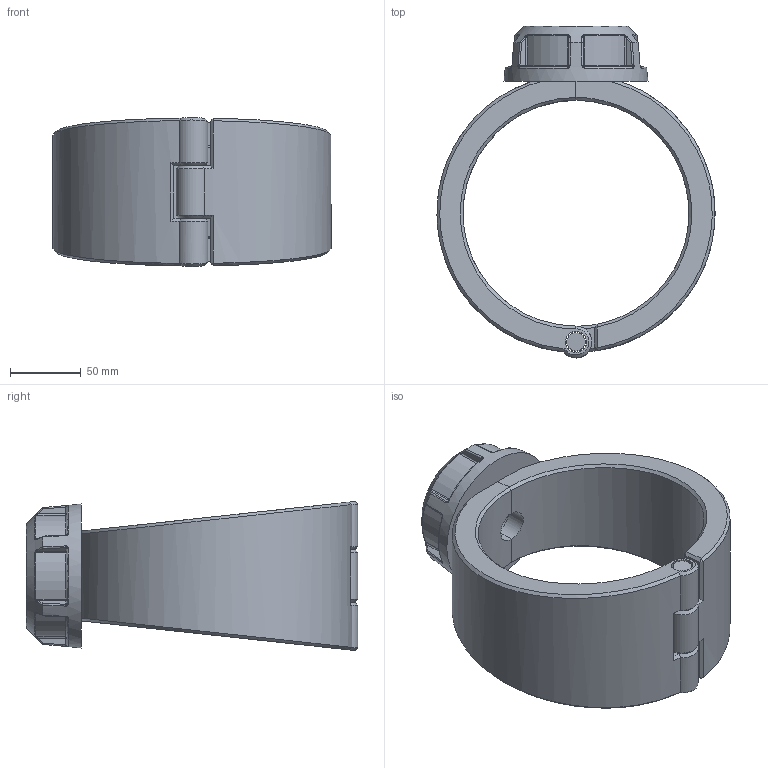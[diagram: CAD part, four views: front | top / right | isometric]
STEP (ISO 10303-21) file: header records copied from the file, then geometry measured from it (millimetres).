
FILE_DESCRIPTION(/* description */ ('Plassadle Threaded 160x1 1/2'''''),/* implementation_level */ '2;1');
FILE_NAME(/* name */ 'C:\Users\comp2\Dropbox\99-16-3568-Processing\Mechanical Fittings\16300\stp\163000160015.stp',/* time_stamp */ '2022-02-03T11:51:39+00:00',/* author */ ('comp2'),/* organization */ (''),/* preprocessor_version */ 'ST-DEVELOPER v17.2',/* originating_system */ 'Autodesk Inventor 2019',/* authorisation */ '');
FILE_SCHEMA (('AUTOMOTIVE_DESIGN { 1 0 10303 214 3 1 1 }'));
Length unit declared in the file: millimetre
Products named in the file (1): 163000160015
Bounding box: 196.98 x 235 x 105.57 mm (x, y, z)
Volume: 1038703.5 mm3; surface area: 156564.3 mm2
Topology: 4 solids, 4 shells, 203 faces, 486 edges, 293 vertices
Faces by surface type: bspline 58, plane 53, cylinder 47, torus 18, cone 15, sphere 12
Full cylindrical faces by diameter (mm): 13.04 x1, 15.04 x3, 22.422 x1, 38.118 x1, 44.845 x1, 67.267 x1
Entity records: 8250 total; most frequent: CARTESIAN_POINT 3903, ORIENTED_EDGE 972, DIRECTION 781, EDGE_CURVE 486, AXIS2_PLACEMENT_3D 330, VERTEX_POINT 293, EDGE_LOOP 213, FACE_OUTER_BOUND 203
